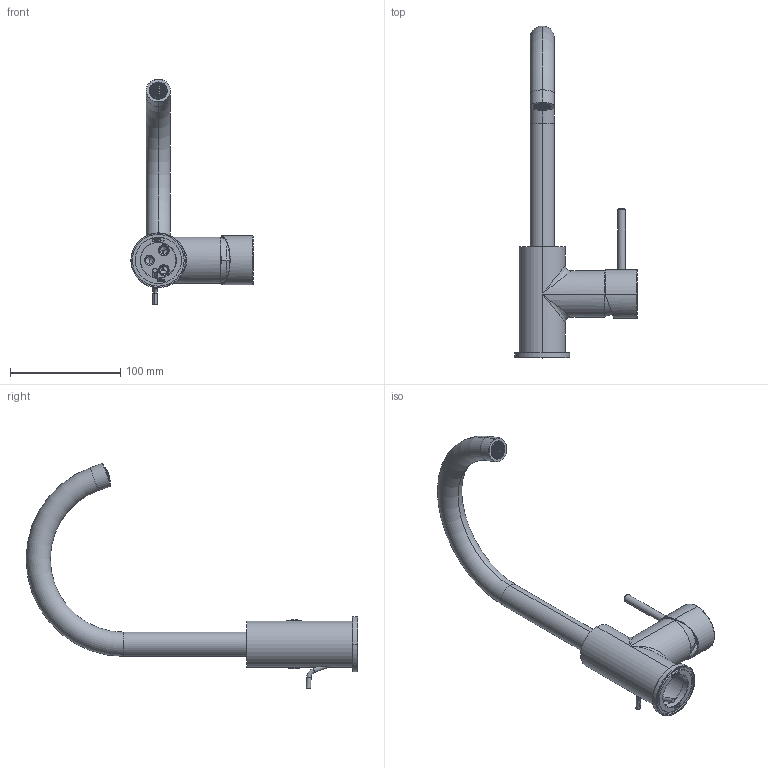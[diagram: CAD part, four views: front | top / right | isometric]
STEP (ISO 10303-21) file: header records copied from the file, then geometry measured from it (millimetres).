
FILE_DESCRIPTION((''),'2;1');
FILE_NAME('F3041_FILE_3D','2016-02-23T',('ivanv'),(''),'CREO PARAMETRIC BY PTC INC, 2015290','CREO PARAMETRIC BY PTC INC, 2015290','');
FILE_SCHEMA(('CONFIG_CONTROL_DESIGN'));
Length unit declared in the file: millimetre
Products named in the file (1): F3041_FILE_3D
Bounding box: 111 x 301.12 x 204.62 mm (x, y, z)
Volume: 171451.2 mm3; surface area: 100079.2 mm2
Topology: 4 solids, 4 shells, 3480 faces, 10018 edges, 6615 vertices
Faces by surface type: plane 2325, torus 437, cylinder 341, bspline 220, cone 87, extrusion 58, sphere 12
Entity records: 144066 total; most frequent: CARTESIAN_POINT 58787, ORIENTED_EDGE 19988, DIRECTION 14426, EDGE_CURVE 9994, VERTEX_POINT 6615, AXIS2_PLACEMENT_3D 4872, VECTOR 4682, LINE 4624
